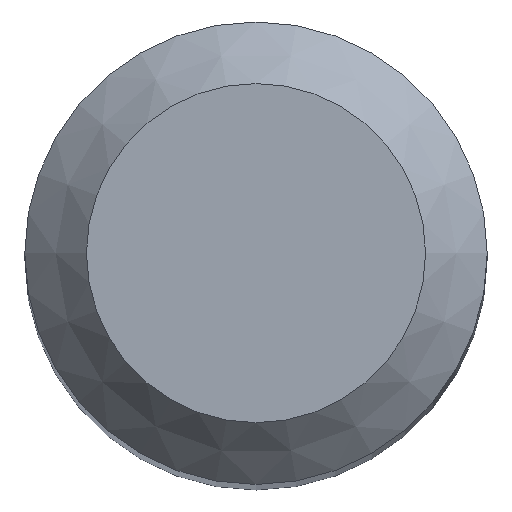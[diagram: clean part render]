
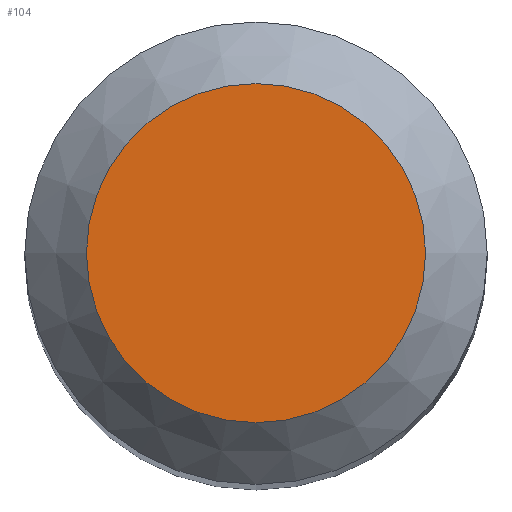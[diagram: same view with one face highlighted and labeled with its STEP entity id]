
A CAD part, top view. The second image highlights one B-rep face of the part: STEP entity #104.
In plain terms, the highlighted planar face has unit normal (0, 0, 1).
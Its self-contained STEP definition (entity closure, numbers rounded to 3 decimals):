
#88=CARTESIAN_POINT('',(2.2,0.0,55.0));
#89=DIRECTION('',(0.0,0.0,1.0));
#90=DIRECTION('',(1.0,0.0,0.0));
#91=AXIS2_PLACEMENT_3D('',#88,#89,#90);
#92=PLANE('',#91);
#93=CARTESIAN_POINT('',(-2.2,0.0,55.0));
#94=VERTEX_POINT('',#93);
#95=CARTESIAN_POINT('',(0.0,0.0,55.0));
#96=DIRECTION('',(0.0,0.0,-1.0));
#97=DIRECTION('',(-1.0,0.0,0.0));
#98=AXIS2_PLACEMENT_3D('',#95,#96,#97);
#99=CIRCLE('',#98,2.2);
#100=EDGE_CURVE('',#94,#94,#99,.T.);
#101=ORIENTED_EDGE('',*,*,#100,.F.);
#102=EDGE_LOOP('',(#101));
#103=FACE_OUTER_BOUND('',#102,.T.);
#104=ADVANCED_FACE('',(#103),#92,.T.);
